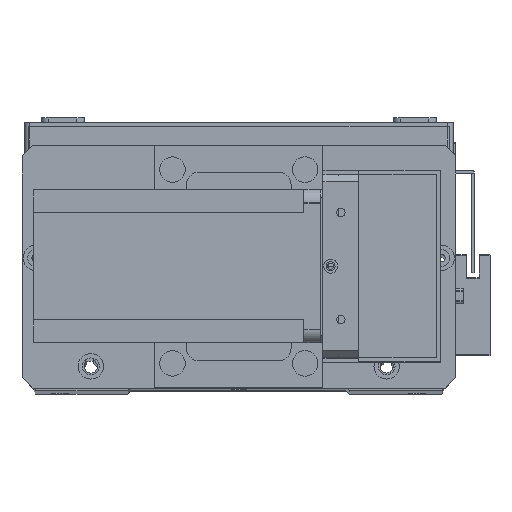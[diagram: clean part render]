
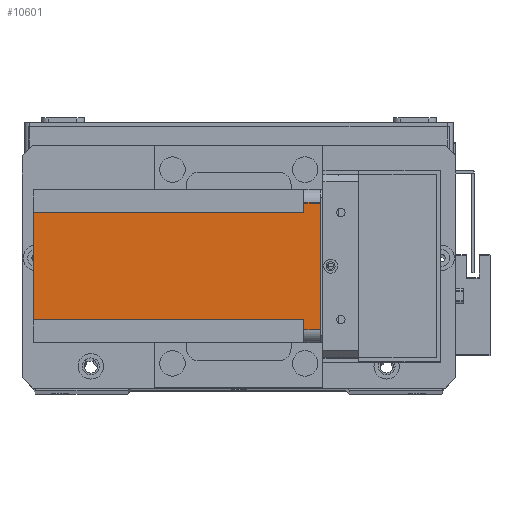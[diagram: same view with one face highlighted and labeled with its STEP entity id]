
A CAD part, top view. The second image highlights one B-rep face of the part: STEP entity #10601.
In plain terms, the highlighted planar face has unit normal (0, 0, 1) as drawn and (-1, 0, 0) by its records, which use the part's own axes.
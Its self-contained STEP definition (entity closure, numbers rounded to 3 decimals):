
#691 = CARTESIAN_POINT ( 'NONE',  ( 0., 55., -6.5 ) ) ;
#1372 = ORIENTED_EDGE ( 'NONE', *, *, #26089, .F. ) ;
#1717 = VERTEX_POINT ( 'NONE', #22786 ) ;
#2124 = VERTEX_POINT ( 'NONE', #9447 ) ;
#2569 = ORIENTED_EDGE ( 'NONE', *, *, #26553, .T. ) ;
#3073 = CARTESIAN_POINT ( 'NONE',  ( 0., 5., -6.5 ) ) ;
#3370 = VECTOR ( 'NONE', #16669, 1000. ) ;
#4625 = CARTESIAN_POINT ( 'NONE',  ( 0., 5., -112.5 ) ) ;
#5033 = CARTESIAN_POINT ( 'NONE',  ( 0., 60., -6.5 ) ) ;
#5601 = VERTEX_POINT ( 'NONE', #7339 ) ;
#7339 = CARTESIAN_POINT ( 'NONE',  ( 0., 9., -6.5 ) ) ;
#8116 = CARTESIAN_POINT ( 'NONE',  ( 0., 9., -112.5 ) ) ;
#8222 = DIRECTION ( 'NONE',  ( 0., -1., 0. ) ) ;
#8257 = DIRECTION ( 'NONE',  ( -1., 0., 0. ) ) ;
#8478 = CARTESIAN_POINT ( 'NONE',  ( 0., 0., -112.5 ) ) ;
#8578 = PLANE ( 'NONE',  #8718 ) ;
#8718 = AXIS2_PLACEMENT_3D ( 'NONE', #8478, #8257, #8222 ) ;
#9447 = CARTESIAN_POINT ( 'NONE',  ( 0., 5., 0. ) ) ;
#9863 = CARTESIAN_POINT ( 'NONE',  ( 0., 51., -112.5 ) ) ;
#10090 = LINE ( 'NONE', #8116, #21931 ) ;
#10147 = VECTOR ( 'NONE', #29160, 1000. ) ;
#10470 = DIRECTION ( 'NONE',  ( 0., 0., -1. ) ) ;
#10601 = ADVANCED_FACE ( 'NONE', ( #28509 ), #8578, .T. ) ;
#13002 = LINE ( 'NONE', #17050, #18513 ) ;
#13726 = CARTESIAN_POINT ( 'NONE',  ( 0., 9., -112.5 ) ) ;
#15718 = VERTEX_POINT ( 'NONE', #13726 ) ;
#16325 = LINE ( 'NONE', #19714, #10147 ) ;
#16669 = DIRECTION ( 'NONE',  ( 0., 0., -1. ) ) ;
#17050 = CARTESIAN_POINT ( 'NONE',  ( 0., 0., -112.5 ) ) ;
#18513 = VECTOR ( 'NONE', #19515, 1000. ) ;
#18854 = ORIENTED_EDGE ( 'NONE', *, *, #26592, .T. ) ;
#18985 = DIRECTION ( 'NONE',  ( 0., 0., 1. ) ) ;
#19193 = DIRECTION ( 'NONE',  ( 0., 1., 0. ) ) ;
#19515 = DIRECTION ( 'NONE',  ( 0., -1., 0. ) ) ;
#19714 = CARTESIAN_POINT ( 'NONE',  ( 0., 0., 0. ) ) ;
#20647 = ORIENTED_EDGE ( 'NONE', *, *, #26626, .F. ) ;
#20648 = CARTESIAN_POINT ( 'NONE',  ( 0., 51., -6.5 ) ) ;
#20853 = VECTOR ( 'NONE', #19193, 1000. ) ;
#21294 = EDGE_LOOP ( 'NONE', ( #30344, #2569, #1372, #18854, #20647, #28990, #25272, #22826 ) ) ;
#21550 = CARTESIAN_POINT ( 'NONE',  ( 0., 55., -112.5 ) ) ;
#21931 = VECTOR ( 'NONE', #10470, 1000. ) ;
#22559 = VERTEX_POINT ( 'NONE', #3073 ) ;
#22786 = CARTESIAN_POINT ( 'NONE',  ( 0., 55., 0. ) ) ;
#22826 = ORIENTED_EDGE ( 'NONE', *, *, #26767, .F. ) ;
#23358 = DIRECTION ( 'NONE',  ( 0., 1., 0. ) ) ;
#23458 = CARTESIAN_POINT ( 'NONE',  ( 0., 51., -112.5 ) ) ;
#24579 = LINE ( 'NONE', #4625, #29250 ) ;
#25272 = ORIENTED_EDGE ( 'NONE', *, *, #26682, .T. ) ;
#25428 = VERTEX_POINT ( 'NONE', #20648 ) ;
#25637 = VERTEX_POINT ( 'NONE', #691 ) ;
#26089 = EDGE_CURVE ( 'NONE', #1717, #2124, #16325, .T. ) ;
#26362 = VECTOR ( 'NONE', #26391, 1000. ) ;
#26391 = DIRECTION ( 'NONE',  ( 0., 0., 1. ) ) ;
#26456 = EDGE_CURVE ( 'NONE', #22559, #5601, #28174, .T. ) ;
#26481 = VERTEX_POINT ( 'NONE', #23458 ) ;
#26553 = EDGE_CURVE ( 'NONE', #22559, #2124, #24579, .T. ) ;
#26592 = EDGE_CURVE ( 'NONE', #1717, #25637, #28514, .T. ) ;
#26626 = EDGE_CURVE ( 'NONE', #25428, #25637, #27794, .T. ) ;
#26639 = EDGE_CURVE ( 'NONE', #26481, #25428, #27074, .T. ) ;
#26682 = EDGE_CURVE ( 'NONE', #26481, #15718, #13002, .T. ) ;
#26746 = VECTOR ( 'NONE', #23358, 1000. ) ;
#26767 = EDGE_CURVE ( 'NONE', #5601, #15718, #10090, .T. ) ;
#27074 = LINE ( 'NONE', #9863, #26362 ) ;
#27794 = LINE ( 'NONE', #5033, #20853 ) ;
#28174 = LINE ( 'NONE', #30232, #26746 ) ;
#28509 = FACE_OUTER_BOUND ( 'NONE', #21294, .T. ) ;
#28514 = LINE ( 'NONE', #21550, #3370 ) ;
#28990 = ORIENTED_EDGE ( 'NONE', *, *, #26639, .F. ) ;
#29160 = DIRECTION ( 'NONE',  ( 0., -1., 0. ) ) ;
#29250 = VECTOR ( 'NONE', #18985, 1000. ) ;
#30232 = CARTESIAN_POINT ( 'NONE',  ( 0., 0., -6.5 ) ) ;
#30344 = ORIENTED_EDGE ( 'NONE', *, *, #26456, .F. ) ;
